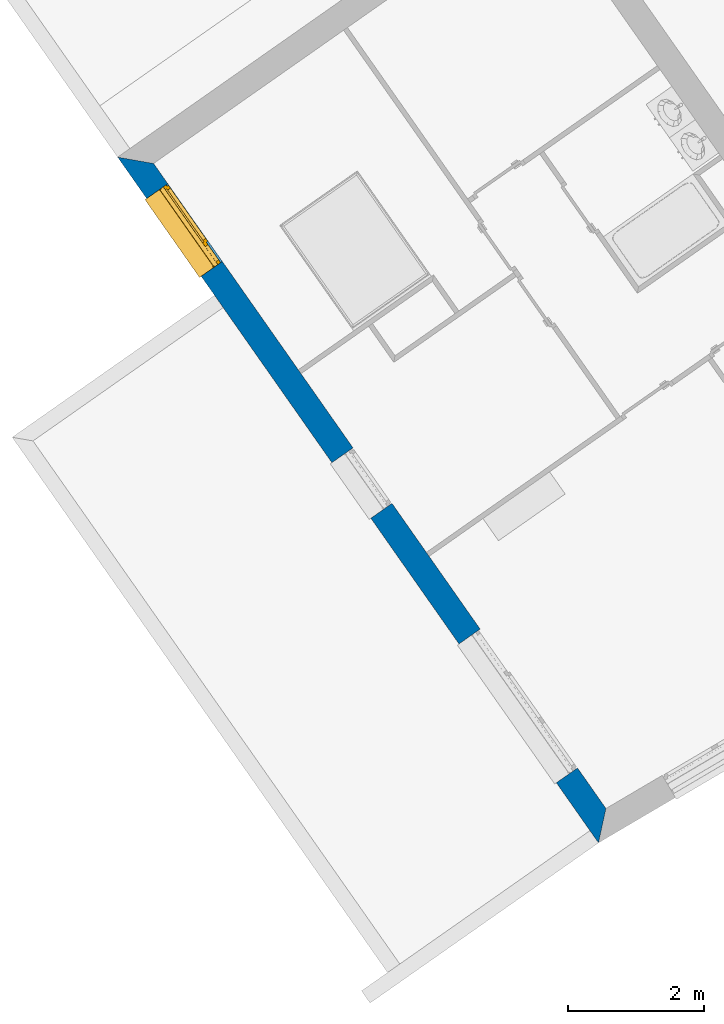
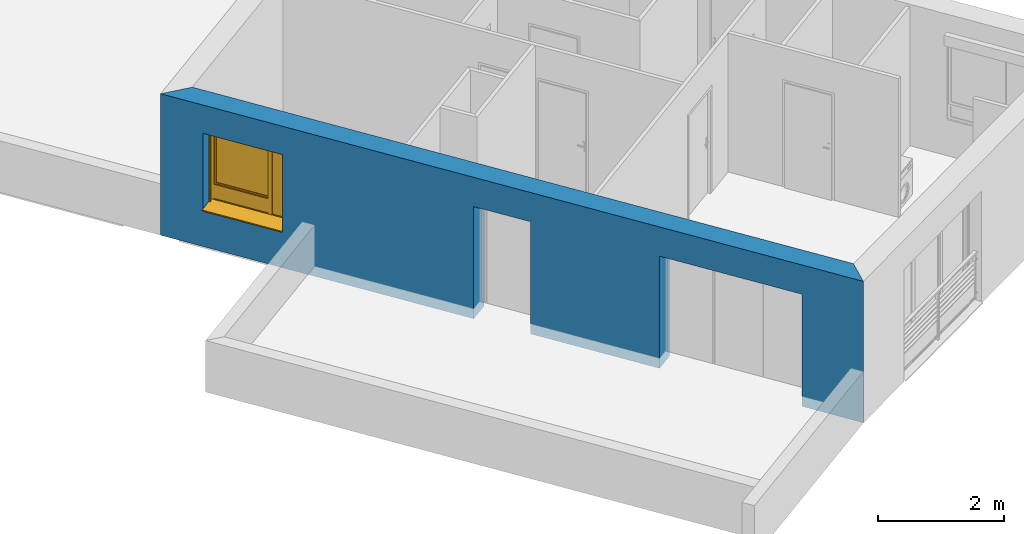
# One storey, part 25 of 121: 1 wall, 1 window, 3 openings.
"""IFC2X3 building model written with IfcOpenShell, lengths in metres."""

from ifc_helpers import new_model, entity, si_unit, converted_unit, derived_unit, money_unit, direction, frame, origin_with_axes, place, context, subcontext, project, spatial, polyline, outline, extrude, open_shell, faceted_brep, surface_model, source, transform, mapped, material, layer, layer_set, layer_usage, type_object, element, fill, save


model = new_model("IFC2X3")

# Units and contexts
model_context = context("Model", 3, precision=1e-05, world=origin_with_axes(), true_north=direction((0.0, 1.0)))
body_context = subcontext(model_context, "Body", "Model", "MODEL_VIEW")
ifc_project = project(units=[si_unit("LENGTHUNIT", "METRE"), si_unit("AREAUNIT", "SQUARE_METRE"), si_unit("VOLUMEUNIT", "CUBIC_METRE"), converted_unit("PLANEANGLEUNIT", "DEGREE", entity("IfcPlaneAngleMeasure", 0.0174532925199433), si_unit("PLANEANGLEUNIT", "RADIAN"), dimensions=[0, 0, 0, 0, 0, 0, 0]), money_unit("CHF"), converted_unit("TIMEUNIT", "Year", entity("IfcTimeMeasure", 31557600.0), si_unit("TIMEUNIT", "SECOND"), dimensions=[0, 0, 1, 0, 0, 0, 0]), si_unit("MASSUNIT", "GRAM", prefix="KILO"), si_unit("THERMODYNAMICTEMPERATUREUNIT", "DEGREE_CELSIUS"), si_unit("LUMINOUSINTENSITYUNIT", "LUMEN"), si_unit("ENERGYUNIT", "JOULE", prefix="MEGA"), derived_unit("THERMALCONDUCTANCEUNIT", [(si_unit("POWERUNIT", "WATT"), 1), (si_unit("LENGTHUNIT", "METRE"), -1), (si_unit("THERMODYNAMICTEMPERATUREUNIT", "KELVIN"), -1)]), derived_unit("SPECIFICHEATCAPACITYUNIT", [(si_unit("ENERGYUNIT", "JOULE"), 1), (si_unit("MASSUNIT", "GRAM", prefix="KILO"), -1), (si_unit("THERMODYNAMICTEMPERATUREUNIT", "KELVIN"), -1)]), derived_unit("MASSDENSITYUNIT", [(si_unit("MASSUNIT", "GRAM", prefix="KILO"), 1), (si_unit("VOLUMEUNIT", "CUBIC_METRE"), -1)])], contexts=[model_context])

# Site, building, storey
site_placement = place(None, origin_with_axes())
site = spatial("IfcSite", under=ifc_project, at=site_placement, Name="Site", CompositionType="ELEMENT")
building_placement = place(site_placement, origin_with_axes())
building = spatial("IfcBuilding", under=site, at=building_placement, Name="Bâtiment", CompositionType="ELEMENT")
storey_placement = place(building_placement, frame((0.0, 0.0, 2.75), z_axis=(0.0, 0.0, 1.0), x_axis=(1.0, 0.0, 0.0)))
storey = spatial("IfcBuildingStorey", under=building, at=storey_placement, Name="Etage 1", CompositionType="ELEMENT", Elevation=2.75)

# Wall, openings, window
ifc_material_1 = material(Name="Parpaing 312445824")
ifc_layer_1 = layer(ifc_material_1, 0.22, ventilated="UNKNOWN")
ifc_material_2 = material(Name="Isolant styromousse 301821074")
ifc_layer_2 = layer(ifc_material_2, 0.16, ventilated="UNKNOWN")
ifc_layer_set = layer_set([ifc_layer_1, ifc_layer_2], Name="isol int 22+16 0836643197")
ifc_layer_usage = layer_usage(ifc_layer_set, "AXIS2", "POSITIVE", 0.0)
wall_type = type_object("IfcWallType", Name="isol int 22+16 0836643197 380", PredefinedType="NOTDEFINED")
wall_placement = place(storey_placement, frame((9549.364183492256, -1063.980358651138, 57.7), z_axis=(0.0, 0.0, 1.0), x_axis=(0.5741598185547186, -0.8187432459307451, 0.0)))
wall = element("IfcWallStandardCase", 1, at=wall_placement, inside=storey, type_object=wall_type, material=ifc_layer_usage, Name="Mur-113", context=body_context, shape_type="SweptSolid", body=[
    extrude(outline(polyline([(0.0, 0.0), (12.34881229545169, 0.0), (11.99776416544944, 0.3799999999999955), (0.3800000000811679, 0.3799999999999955), (0.0, 0.0)])), origin_with_axes(), (0.0, 0.0, 1.0), 2.75),
])
opening_1_placement = place(wall_placement, frame((1.445114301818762, 0.0, 0.7000000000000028), z_axis=(0.0, 0.0, 1.0), x_axis=(1.0, 0.0, 0.0)))
opening_1 = element("IfcOpeningElement", 2, at=opening_1_placement, cuts=wall, Name="Fen-045", context=body_context, shape_type="Brep", body=[
    faceted_brep([(-0.7000000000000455, 0.4800000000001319, 1.5), (0.6999999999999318, 0.4800000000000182, 1.5), (0.6999999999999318, 6.186046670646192, 1.5), (-0.7000000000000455, 6.186046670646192, 1.5), (-0.7000000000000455, 0.4800000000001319, 1.700000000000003), (0.6999999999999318, 0.4800000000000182, 1.700000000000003), (0.6999999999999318, 0.2999999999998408, 1.5), (0.6999999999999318, 0.2999999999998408, 0.0), (0.6999999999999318, 6.186046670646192, 0.0), (-0.7000000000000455, 6.186046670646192, 0.0), (-0.7000000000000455, 0.2999999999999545, 1.5), (-0.7000000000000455, 0.2999999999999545, 0.0), (-0.7000000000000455, 0.2200000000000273, 1.5), (-0.7000000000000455, 0.2200000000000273, 1.700000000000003), (0.6999999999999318, 0.2200000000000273, 1.700000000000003), (0.6999999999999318, 0.2200000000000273, 1.5), (0.6999999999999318, -5.806046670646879, 1.5), (0.6999999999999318, -5.806046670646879, 0.0), (-0.7000000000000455, -5.806046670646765, 0.0), (-0.7000000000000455, -5.806046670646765, 1.5)], [[[0, 1, 2, 3]], [[1, 0, 4, 5]], [[1, 6, 7, 8, 2]], [[2, 8, 9, 3]], [[10, 0, 3, 9, 11]], [[0, 10, 12, 13, 4]], [[14, 5, 4, 13]], [[6, 1, 5, 14, 15]], [[6, 15, 16, 17, 7]], [[7, 11, 9, 8]], [[12, 10, 11, 18, 19]], [[12, 15, 14, 13]], [[15, 12, 19, 16]], [[19, 18, 17, 16]], [[11, 7, 17, 18]]]),
])
opening_2_placement = place(wall_placement, frame((6.002004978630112, 0.0, 0.0), z_axis=(0.0, 0.0, 1.0), x_axis=(1.0, 0.0, 0.0)))
element("IfcOpeningElement", 3, at=opening_2_placement, cuts=wall, Name="Fen-052", context=body_context, shape_type="Brep", body=[
    faceted_brep([(-0.5, 0.4799999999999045, 2.18), (0.4999999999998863, 0.4799999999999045, 2.18), (0.4999999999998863, 6.186046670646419, 2.18), (-0.5, 6.186046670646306, 2.18), (-0.5, 0.4799999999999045, 2.380000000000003), (0.4999999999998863, 0.4799999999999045, 2.380000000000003), (0.4999999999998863, 0.2999999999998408, 2.18), (0.4999999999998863, 0.2999999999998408, 0.0), (0.4999999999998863, 6.186046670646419, 0.0), (-0.5, 6.186046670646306, 0.0), (-0.5, 0.2999999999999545, 2.18), (-0.5, 0.2999999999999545, 0.0), (-0.5, 0.2199999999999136, 2.18), (-0.5, 0.2199999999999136, 2.380000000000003), (0.4999999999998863, 0.2199999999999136, 2.380000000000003), (0.4999999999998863, 0.2199999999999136, 2.18), (0.4999999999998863, -5.806046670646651, 2.18), (0.4999999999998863, -5.806046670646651, 0.0), (-0.5000000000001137, -5.806046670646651, 0.0), (-0.5000000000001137, -5.806046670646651, 2.18)], [[[0, 1, 2, 3]], [[1, 0, 4, 5]], [[1, 6, 7, 8, 2]], [[2, 8, 9, 3]], [[10, 0, 3, 9, 11]], [[0, 10, 12, 13, 4]], [[4, 13, 14, 5]], [[6, 1, 5, 14, 15]], [[6, 15, 16, 17, 7]], [[7, 11, 9, 8]], [[12, 10, 11, 18, 19]], [[12, 15, 14, 13]], [[15, 12, 19, 16]], [[19, 18, 17, 16]], [[11, 7, 17, 18]]]),
])
opening_3_placement = place(wall_placement, frame((10.01618190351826, 0.0, 0.0), z_axis=(0.0, 0.0, 1.0), x_axis=(1.0, 0.0, 0.0)))
element("IfcOpeningElement", 4, at=opening_3_placement, cuts=wall, Name="Fen-045", context=body_context, shape_type="Brep", body=[
    faceted_brep([(-1.25, 0.4800000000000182, 2.18), (1.25, 0.4799999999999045, 2.18), (1.249999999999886, 6.186046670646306, 2.18), (-1.25, 6.186046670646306, 2.18), (-1.25, 0.4800000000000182, 2.380000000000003), (1.25, 0.4799999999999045, 2.380000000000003), (1.249999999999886, 0.2999999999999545, 2.18), (1.249999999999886, 0.2999999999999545, 0.0), (1.249999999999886, 6.186046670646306, 0.0), (-1.25, 6.186046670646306, 0.0), (-1.25, 0.2999999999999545, 2.18), (-1.25, 0.2999999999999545, 0.0), (-1.25, 0.2199999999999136, 2.18), (-1.25, 0.2199999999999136, 2.380000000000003), (1.25, 0.2199999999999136, 2.380000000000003), (1.25, 0.2199999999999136, 2.18), (1.25, -5.806046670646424, 2.18), (1.25, -5.806046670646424, 0.0), (-1.25, -5.806046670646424, 0.0), (-1.25, -5.806046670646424, 2.18)], [[[0, 1, 2, 3]], [[1, 0, 4, 5]], [[1, 6, 7, 8, 2]], [[2, 8, 9, 3]], [[10, 0, 3, 9, 11]], [[0, 10, 12, 13, 4]], [[4, 13, 14, 5]], [[6, 1, 5, 14, 15]], [[6, 15, 16, 17, 7]], [[7, 11, 9, 8]], [[12, 10, 11, 18, 19]], [[12, 15, 14, 13]], [[15, 12, 19, 16]], [[19, 18, 17, 16]], [[11, 7, 17, 18]]]),
])
window_style = type_object("IfcWindowStyle", Name="Fenêtre variable 27", ConstructionType="NOTDEFINED", OperationType="TRIPLE_PANEL_RIGHT", ParameterTakesPrecedence=False, Sizeable=False)
shared_shape = source(origin_with_axes(), body_context, "Body", "SurfaceModel", [
    surface_model("IfcShellBasedSurfaceModel", [(-0.7, -0.05100000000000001, 0.05), (-0.7, -0.05100000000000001, 0.04), (0.7, -0.05100000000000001, 0.04000000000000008), (0.7, -0.05100000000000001, 0.05000000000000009), (-0.7, -0.3799999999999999, 0.02899999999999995), (0.7, -0.3799999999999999, 0.02900000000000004), (-0.7, -0.3799999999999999, 0.008999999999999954), (0.7, -0.3799999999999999, 0.00900000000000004), (-0.7, -0.3699999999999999, 0.01899999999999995), (0.7, -0.3699999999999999, 0.01900000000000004)], [open_shell([[[0, 1, 2, 3]], [[1, 4, 5, 2]], [[4, 6, 7, 5]], [[6, 8, 9, 7]]])]),
    faceted_brep([(-0.7, -0.13, 1.7), (-0.697, -0.13, 1.7), (-0.697, 0.13, 1.7), (-0.7, 0.13, 1.7), (-0.7, -0.13, 1.5), (-0.697, -0.13, 1.5), (-0.697, 0.13, 1.5), (-0.7, 0.13, 1.5)], [[[0, 1, 2, 3]], [[4, 5, 1, 0]], [[1, 5, 6, 2]], [[3, 2, 6, 7]], [[0, 3, 7, 4]], [[7, 6, 5, 4]]]),
    faceted_brep([(0.6970000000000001, -0.1299999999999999, 1.7), (0.7000000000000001, -0.1299999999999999, 1.7), (0.7000000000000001, 0.1300000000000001, 1.7), (0.6970000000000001, 0.1300000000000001, 1.7), (0.6970000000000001, -0.1299999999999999, 1.5), (0.7000000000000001, -0.1299999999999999, 1.5), (0.7000000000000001, 0.1300000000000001, 1.5), (0.6970000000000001, 0.1300000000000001, 1.5)], [[[0, 1, 2, 3]], [[4, 5, 1, 0]], [[1, 5, 6, 2]], [[3, 2, 6, 7]], [[0, 3, 7, 4]], [[7, 6, 5, 4]]]),
    faceted_brep([(-0.697, -0.13, 1.5), (0.697, -0.1299999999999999, 1.5), (0.697, -0.1299999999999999, 1.7), (-0.697, -0.13, 1.7), (-0.697, -0.127, 1.5), (0.697, -0.1269999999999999, 1.5), (0.697, -0.1269999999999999, 1.697), (0.697, 0.1270000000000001, 1.697), (0.697, 0.1270000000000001, 1.503), (0.697, -0.1079999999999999, 1.503), (0.697, -0.1079999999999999, 1.5), (0.697, 0.1300000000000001, 1.5), (0.697, 0.1300000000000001, 1.7), (-0.697, 0.13, 1.7), (-0.697, 0.13, 1.5), (-0.697, -0.108, 1.5), (-0.697, -0.108, 1.503), (-0.697, 0.127, 1.503), (-0.697, 0.127, 1.697), (-0.697, -0.127, 1.697)], [[[0, 1, 2, 3]], [[4, 5, 1, 0]], [[1, 5, 6, 7, 8, 9, 10, 11, 12, 2]], [[3, 2, 12, 13]], [[0, 3, 13, 14, 15, 16, 17, 18, 19, 4]], [[19, 6, 5, 4]], [[18, 7, 6, 19]], [[17, 8, 7, 18]], [[16, 9, 8, 17]], [[15, 10, 9, 16]], [[14, 11, 10, 15]], [[13, 12, 11, 14]]]),
    faceted_brep([(-0.694, -0.08075423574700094, 1.585760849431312), (-0.694, -0.08200000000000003, 1.6), (-0.694, -0.0807542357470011, 1.614239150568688), (-0.694, -0.07705479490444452, 1.628045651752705), (-0.694, -0.07101408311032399, 1.641), (-0.694, -0.06281564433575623, 1.652708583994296), (-0.694, -0.05270858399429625, 1.662815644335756), (-0.694, -0.04100000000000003, 1.671014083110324), (-0.694, -0.02804565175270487, 1.677054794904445), (-0.694, -0.01423915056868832, 1.680754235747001), (-0.694, 0.0, 1.682), (-0.694, 0.01423915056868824, 1.680754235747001), (-0.694, 0.02804565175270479, 1.677054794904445), (-0.694, 0.04099999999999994, 1.671014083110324), (-0.694, 0.05270858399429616, 1.662815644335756), (-0.694, 0.06281564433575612, 1.652708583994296), (-0.694, 0.07101408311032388, 1.641), (-0.694, 0.0770547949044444, 1.628045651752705), (-0.694, 0.08075423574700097, 1.614239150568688), (-0.694, 0.0819999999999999, 1.6), (-0.694, 0.08075423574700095, 1.585760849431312), (-0.694, 0.07705479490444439, 1.571954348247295), (-0.694, 0.07101408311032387, 1.559), (-0.694, 0.06281564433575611, 1.547291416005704), (-0.694, 0.05270858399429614, 1.537184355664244), (-0.694, 0.04099999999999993, 1.528985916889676), (-0.694, 0.02804565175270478, 1.522945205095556), (-0.694, 0.01423915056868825, 1.519245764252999), (-0.694, 0.0, 1.518), (-0.694, -0.01423915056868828, 1.519245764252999), (-0.694, -0.02804565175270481, 1.522945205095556), (-0.694, -0.04099999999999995, 1.528985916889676), (-0.694, -0.05270858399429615, 1.537184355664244), (-0.694, -0.06281564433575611, 1.547291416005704), (-0.694, -0.07101408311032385, 1.559), (-0.694, -0.07705479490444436, 1.571954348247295), (0.694, -0.08075423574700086, 1.585760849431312), (0.694, -0.08199999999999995, 1.6), (0.694, -0.08075423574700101, 1.614239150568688), (0.694, -0.07705479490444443, 1.628045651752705), (0.694, -0.07101408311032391, 1.641), (0.694, -0.06281564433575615, 1.652708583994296), (0.694, -0.05270858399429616, 1.662815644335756), (0.694, -0.04099999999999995, 1.671014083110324), (0.694, -0.02804565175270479, 1.677054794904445), (0.694, -0.01423915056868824, 1.680754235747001), (0.694, 0.0, 1.682), (0.694, 0.01423915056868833, 1.680754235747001), (0.694, 0.02804565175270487, 1.677054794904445), (0.694, 0.04100000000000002, 1.671014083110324), (0.694, 0.05270858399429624, 1.662815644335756), (0.694, 0.0628156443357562, 1.652708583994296), (0.694, 0.07101408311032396, 1.641), (0.694, 0.07705479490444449, 1.628045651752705), (0.694, 0.08075423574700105, 1.614239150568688), (0.694, 0.08199999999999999, 1.6), (0.694, 0.08075423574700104, 1.585760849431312), (0.694, 0.07705479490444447, 1.571954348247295), (0.694, 0.07101408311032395, 1.559), (0.694, 0.06281564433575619, 1.547291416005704), (0.694, 0.05270858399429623, 1.537184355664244), (0.694, 0.04100000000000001, 1.528985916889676), (0.694, 0.02804565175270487, 1.522945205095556), (0.694, 0.01423915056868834, 1.519245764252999), (0.694, 0.0, 1.518), (0.694, -0.0142391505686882, 1.519245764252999), (0.694, -0.02804565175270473, 1.522945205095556), (0.694, -0.04099999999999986, 1.528985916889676), (0.694, -0.05270858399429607, 1.537184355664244), (0.694, -0.06281564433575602, 1.547291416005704), (0.694, -0.07101408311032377, 1.559), (0.694, -0.07705479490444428, 1.571954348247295)], [[[0, 1, 2, 3, 4, 5, 6, 7, 8, 9, 10, 11, 12, 13, 14, 15, 16, 17, 18, 19, 20, 21, 22, 23, 24, 25, 26, 27, 28, 29, 30, 31, 32, 33, 34, 35]], [[0, 36, 37, 1]], [[1, 37, 38, 2]], [[2, 38, 39, 3]], [[3, 39, 40, 4]], [[4, 40, 41, 5]], [[5, 41, 42, 6]], [[6, 42, 43, 7]], [[7, 43, 44, 8]], [[8, 44, 45, 9]], [[9, 45, 46, 10]], [[10, 46, 47, 11]], [[11, 47, 48, 12]], [[12, 48, 49, 13]], [[13, 49, 50, 14]], [[14, 50, 51, 15]], [[15, 51, 52, 16]], [[16, 52, 53, 17]], [[17, 53, 54, 18]], [[18, 54, 55, 19]], [[19, 55, 56, 20]], [[20, 56, 57, 21]], [[21, 57, 58, 22]], [[22, 58, 59, 23]], [[23, 59, 60, 24]], [[24, 60, 61, 25]], [[25, 61, 62, 26]], [[26, 62, 63, 27]], [[27, 63, 64, 28]], [[28, 64, 65, 29]], [[29, 65, 66, 30]], [[30, 66, 67, 31]], [[31, 67, 68, 32]], [[32, 68, 69, 33]], [[33, 69, 70, 34]], [[34, 70, 71, 35]], [[35, 71, 36, 0]], [[36, 71, 70, 69, 68, 67, 66, 65, 64, 63, 62, 61, 60, 59, 58, 57, 56, 55, 54, 53, 52, 51, 50, 49, 48, 47, 46, 45, 44, 43, 42, 41, 40, 39, 38, 37]]]),
    faceted_brep([(0.7, -0.105, 0.03), (0.7, -0.1049999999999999, 1.5), (0.7, -0.1299999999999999, 1.5), (0.7, -0.13, 0.03), (0.6749999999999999, -0.105, 0.03), (0.6749999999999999, -0.1049999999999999, 1.5), (0.6749999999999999, -0.1079999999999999, 1.5), (0.697, -0.1079999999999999, 1.5), (0.697, -0.1269999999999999, 1.5), (0.6749999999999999, -0.1269999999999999, 1.5), (0.6749999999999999, -0.1299999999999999, 1.5), (0.6749999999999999, -0.13, 0.03), (0.6749999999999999, -0.127, 0.03), (0.697, -0.127, 0.03), (0.697, -0.108, 0.03), (0.6749999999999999, -0.108, 0.03)], [[[0, 1, 2, 3]], [[4, 5, 1, 0]], [[1, 5, 6, 7, 8, 9, 10, 2]], [[3, 2, 10, 11]], [[0, 3, 11, 12, 13, 14, 15, 4]], [[15, 6, 5, 4]], [[14, 7, 6, 15]], [[13, 8, 7, 14]], [[12, 9, 8, 13]], [[11, 10, 9, 12]]]),
    faceted_brep([(-0.7, -0.105, 0.03), (-0.7, -0.13, 0.03), (-0.7, -0.1299999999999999, 1.5), (-0.7, -0.1049999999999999, 1.5), (-0.6749999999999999, -0.105, 0.03), (-0.6749999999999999, -0.108, 0.03), (-0.697, -0.108, 0.03), (-0.697, -0.127, 0.03), (-0.6749999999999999, -0.127, 0.03), (-0.6749999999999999, -0.13, 0.03), (-0.6749999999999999, -0.1299999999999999, 1.5), (-0.6749999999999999, -0.1269999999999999, 1.5), (-0.697, -0.1269999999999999, 1.5), (-0.697, -0.1079999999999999, 1.5), (-0.6749999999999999, -0.1079999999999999, 1.5), (-0.6749999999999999, -0.1049999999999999, 1.5)], [[[0, 1, 2, 3]], [[0, 4, 5, 6, 7, 8, 9, 1]], [[1, 9, 10, 2]], [[3, 2, 10, 11, 12, 13, 14, 15]], [[4, 0, 3, 15]], [[5, 4, 15, 14]], [[6, 5, 14, 13]], [[7, 6, 13, 12]], [[8, 7, 12, 11]], [[9, 8, 11, 10]]]),
    surface_model("IfcShellBasedSurfaceModel", [(-0.697, -0.115, 1.6), (0.697, -0.1149999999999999, 1.6), (0.697, -0.1199999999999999, 1.6), (-0.697, -0.12, 1.6), (-0.697, -0.115, 1.6), (-0.697, -0.12, 1.6), (0.697, -0.12, 1.6), (0.697, -0.1149999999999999, 1.6)], [open_shell([[[0, 1, 2, 3]], [[4, 5, 6, 7]]])]),
    faceted_brep([(-0.697, -0.115, 1.6), (0.697, -0.1149999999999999, 1.6), (0.697, -0.1166666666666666, 1.583333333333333), (-0.697, -0.1166666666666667, 1.583333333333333), (-0.697, -0.12, 1.6), (0.697, -0.1199999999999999, 1.6), (0.697, -0.1216666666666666, 1.583333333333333), (0.697, -0.1216666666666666, 1.566666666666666), (0.697, -0.1199999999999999, 1.55), (0.697, -0.1149999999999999, 1.55), (0.697, -0.1166666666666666, 1.566666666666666), (-0.697, -0.1166666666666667, 1.566666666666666), (-0.697, -0.115, 1.55), (-0.697, -0.12, 1.55), (-0.697, -0.1216666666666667, 1.566666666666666), (-0.697, -0.1216666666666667, 1.583333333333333)], [[[0, 1, 2, 3]], [[4, 5, 1, 0]], [[1, 5, 6, 7, 8, 9, 10, 2]], [[3, 2, 10, 11]], [[0, 3, 11, 12, 13, 14, 15, 4]], [[15, 6, 5, 4]], [[14, 7, 6, 15]], [[13, 8, 7, 14]], [[12, 9, 8, 13]], [[11, 10, 9, 12]]]),
    faceted_brep([(-0.697, -0.115, 1.55), (0.697, -0.1149999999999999, 1.55), (0.697, -0.1166666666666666, 1.533333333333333), (-0.697, -0.1166666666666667, 1.533333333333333), (-0.697, -0.12, 1.55), (0.697, -0.1199999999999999, 1.55), (0.697, -0.1216666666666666, 1.533333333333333), (0.697, -0.1216666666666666, 1.516666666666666), (0.697, -0.1199999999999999, 1.5), (0.697, -0.1149999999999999, 1.5), (0.697, -0.1166666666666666, 1.516666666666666), (-0.697, -0.1166666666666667, 1.516666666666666), (-0.697, -0.115, 1.5), (-0.697, -0.12, 1.5), (-0.697, -0.1216666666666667, 1.516666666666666), (-0.697, -0.1216666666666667, 1.533333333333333)], [[[0, 1, 2, 3]], [[4, 5, 1, 0]], [[1, 5, 6, 7, 8, 9, 10, 2]], [[3, 2, 10, 11]], [[0, 3, 11, 12, 13, 14, 15, 4]], [[15, 6, 5, 4]], [[14, 7, 6, 15]], [[13, 8, 7, 14]], [[12, 9, 8, 13]], [[11, 10, 9, 12]]]),
    faceted_brep([(-0.6749999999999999, 0.0, 1.45), (-0.7, 0.0, 1.45), (-0.7, -0.05000000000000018, 1.45), (-0.6499999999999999, -0.05000000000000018, 1.45), (-0.6499999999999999, -0.02500000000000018, 1.45), (-0.6749999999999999, -0.02500000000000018, 1.45), (-0.6749999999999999, 0.0, 0.3099999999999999), (-0.6499999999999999, 0.0, 0.3099999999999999), (-0.6499999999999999, 0.0, 0.265), (-0.6499999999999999, 0.0, 0.05000000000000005), (-0.7, 0.0, 0.05000000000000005), (-0.7, -0.05000000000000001, 0.05000000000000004), (-0.6499999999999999, -0.05000000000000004, 0.335), (-0.6499999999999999, -0.05000000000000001, 0.05000000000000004), (-0.6499999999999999, -0.05000000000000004, 0.265), (-0.6499999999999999, -0.02500000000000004, 0.335), (-0.6499999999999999, -0.02500000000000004, 0.3099999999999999), (-0.6749999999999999, -0.02500000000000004, 0.3099999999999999)], [[[0, 1, 2, 3, 4, 5]], [[6, 7, 8, 9, 10, 1, 0]], [[1, 10, 11, 2]], [[12, 3, 2, 11, 13, 14]], [[4, 3, 12, 15]], [[15, 16, 17, 5, 4]], [[5, 17, 6, 0]], [[6, 17, 16, 7]], [[16, 15, 12, 14, 8, 7]], [[9, 8, 14, 13]], [[10, 9, 13, 11]]]),
    faceted_brep([(0.3068894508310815, -0.02500000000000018, 1.45), (0.3068894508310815, -0.05000000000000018, 1.45), (0.3768894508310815, -0.05000000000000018, 1.45), (0.3768894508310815, 0.0, 1.45), (0.3318894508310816, 0.0, 1.45), (0.3318894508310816, -0.02500000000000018, 1.45), (0.3068894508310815, -0.02500000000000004, 0.335), (0.3068894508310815, -0.05000000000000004, 0.335), (0.3068894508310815, -0.05000000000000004, 0.265), (0.3068894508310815, -0.05000000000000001, 0.05000000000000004), (0.3768894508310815, -0.05000000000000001, 0.05000000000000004), (0.3768894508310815, 0.0, 0.05000000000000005), (0.3318894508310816, 0.0, 0.3099999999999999), (0.3068894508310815, 0.0, 0.05000000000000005), (0.3068894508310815, 0.0, 0.265), (0.3068894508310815, 0.0, 0.3099999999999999), (0.3318894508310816, -0.02500000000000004, 0.3099999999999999), (0.3068894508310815, -0.02500000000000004, 0.3099999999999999)], [[[0, 1, 2, 3, 4, 5]], [[6, 7, 1, 0]], [[8, 9, 10, 2, 1, 7]], [[11, 3, 2, 10]], [[12, 4, 3, 11, 13, 14, 15]], [[12, 16, 5, 4]], [[5, 16, 17, 6, 0]], [[17, 15, 14, 8, 7, 6]], [[14, 13, 9, 8]], [[13, 11, 10, 9]], [[15, 17, 16, 12]]]),
    faceted_brep([(-0.6499999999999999, -0.02500000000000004, 0.335), (-0.6499999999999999, -0.05000000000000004, 0.335), (0.3068894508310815, -0.05000000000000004, 0.335), (0.3068894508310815, -0.02500000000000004, 0.335), (-0.6499999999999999, -0.02500000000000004, 0.3099999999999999), (-0.6499999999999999, 0.0, 0.3099999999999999), (-0.6499999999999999, 0.0, 0.265), (-0.6499999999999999, -0.05000000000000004, 0.265), (0.3068894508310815, -0.05000000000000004, 0.265), (0.3068894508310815, -0.02500000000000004, 0.3099999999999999), (0.3068894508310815, 0.0, 0.265), (0.3068894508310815, 0.0, 0.3099999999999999)], [[[0, 1, 2, 3]], [[4, 5, 6, 7, 1, 0]], [[2, 1, 7, 8]], [[9, 3, 2, 8, 10, 11]], [[9, 4, 0, 3]], [[5, 4, 9, 11]], [[11, 10, 6, 5]], [[6, 10, 8, 7]]]),
    faceted_brep([(-0.6749999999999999, 0.0, 1.45), (-0.7, 0.0, 1.45), (-0.7, 0.0, 1.5), (0.7, 0.0, 1.5), (0.7, 0.0, 1.45), (0.6499999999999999, 0.0, 1.45), (0.3768894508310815, 0.0, 1.45), (0.3318894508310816, 0.0, 1.45), (0.3318894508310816, 0.0, 1.475), (-0.6749999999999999, 0.0, 1.475), (-0.6749999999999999, -0.02500000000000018, 1.45), (-0.6499999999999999, -0.02500000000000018, 1.45), (-0.6499999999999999, -0.05000000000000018, 1.45), (-0.7, -0.05000000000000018, 1.45), (-0.7, -0.05000000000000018, 1.5), (0.7, -0.05000000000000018, 1.5), (0.7, -0.05000000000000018, 1.45), (0.6499999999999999, -0.05000000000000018, 1.45), (0.3768894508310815, -0.05000000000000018, 1.45), (0.3318894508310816, -0.02500000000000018, 1.45), (0.3068894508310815, -0.05000000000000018, 1.45), (0.3068894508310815, -0.02500000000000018, 1.45), (0.3318894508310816, -0.02500000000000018, 1.475), (-0.6749999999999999, -0.02500000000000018, 1.475)], [[[0, 1, 2, 3, 4, 5, 6, 7, 8, 9]], [[10, 11, 12, 13, 1, 0]], [[2, 1, 13, 14]], [[3, 2, 14, 15]], [[4, 3, 15, 16]], [[5, 4, 16, 17]], [[6, 5, 17, 18]], [[19, 7, 6, 18, 20, 21]], [[7, 19, 22, 8]], [[8, 22, 23, 9]], [[9, 23, 10, 0]], [[21, 11, 10, 23, 22, 19]], [[21, 20, 12, 11]], [[18, 17, 16, 15, 14, 13, 12, 20]]]),
    faceted_brep([(0.6499999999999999, -0.05000000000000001, 0.05), (0.6499999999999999, 0.0, 0.05000000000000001), (0.7, 0.0, 0.05000000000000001), (0.7, -0.05000000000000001, 0.05), (0.6499999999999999, -0.05000000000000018, 1.45), (0.6499999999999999, 0.0, 1.45), (0.7, 0.0, 1.45), (0.7, -0.05000000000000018, 1.45)], [[[0, 1, 2, 3]], [[4, 5, 1, 0]], [[1, 5, 6, 2]], [[3, 2, 6, 7]], [[0, 3, 7, 4]], [[7, 6, 5, 4]]]),
    faceted_brep([(-0.6499999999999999, -0.05000000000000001, 0.05), (-0.6499999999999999, 0.0, 0.05000000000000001), (-0.7, 0.0, 0.05000000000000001), (-0.7, -0.05000000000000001, 0.05), (0.3068894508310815, -0.05000000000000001, 0.05), (0.3068894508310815, 0.0, 0.05000000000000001), (0.3768894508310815, 0.0, 0.05000000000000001), (0.6499999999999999, 0.0, 0.05000000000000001), (0.7, 0.0, 0.05000000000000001), (0.7, 0.0, 0.0), (-0.7, 0.0, 0.0), (-0.7, -0.05, 0.0), (0.7, -0.05, 0.0), (0.7, -0.05000000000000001, 0.05), (0.6499999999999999, -0.05000000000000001, 0.05), (0.3768894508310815, -0.05000000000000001, 0.05)], [[[0, 1, 2, 3]], [[4, 5, 1, 0]], [[1, 5, 6, 7, 8, 9, 10, 2]], [[3, 2, 10, 11]], [[0, 3, 11, 12, 13, 14, 15, 4]], [[15, 6, 5, 4]], [[14, 7, 6, 15]], [[13, 8, 7, 14]], [[12, 9, 8, 13]], [[11, 10, 9, 12]]]),
    faceted_brep([(-0.625, -0.02500000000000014, 1.425), (-0.625, 0.02499999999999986, 1.425), (-0.6749999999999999, 0.02499999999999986, 1.425), (-0.6749999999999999, -0.02500000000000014, 1.425), (-0.625, -0.02500000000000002, 0.3599999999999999), (-0.625, 0.02499999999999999, 0.3599999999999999), (-0.6749999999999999, 0.02499999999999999, 0.3599999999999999), (-0.6749999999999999, -0.02500000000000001, 0.3599999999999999)], [[[0, 1, 2, 3]], [[4, 5, 1, 0]], [[1, 5, 6, 2]], [[3, 2, 6, 7]], [[0, 3, 7, 4]], [[7, 6, 5, 4]]]),
    faceted_brep([(0.2818894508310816, -0.02500000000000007, 0.3599999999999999), (0.2818894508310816, 0.02499999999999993, 0.3599999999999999), (0.3318894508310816, 0.02499999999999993, 0.3599999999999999), (0.3318894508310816, -0.02500000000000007, 0.3599999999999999), (0.2818894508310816, -0.0250000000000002, 1.425), (0.2818894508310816, 0.0249999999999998, 1.425), (0.3318894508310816, 0.0249999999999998, 1.425), (0.3318894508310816, -0.0250000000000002, 1.425)], [[[0, 1, 2, 3]], [[4, 5, 1, 0]], [[1, 5, 6, 2]], [[3, 2, 6, 7]], [[0, 3, 7, 4]], [[7, 6, 5, 4]]]),
    faceted_brep([(0.3318894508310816, -0.02500000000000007, 0.3099999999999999), (0.3318894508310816, 0.02499999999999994, 0.3099999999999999), (0.3318894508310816, 0.02499999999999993, 0.3599999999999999), (0.3318894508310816, -0.02500000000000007, 0.3599999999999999), (-0.6749999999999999, -0.025, 0.3099999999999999), (-0.6749999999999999, 0.02499999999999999, 0.3099999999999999), (-0.6749999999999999, 0.02499999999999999, 0.3599999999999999), (-0.625, 0.02499999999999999, 0.3599999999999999), (0.2818894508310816, 0.02499999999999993, 0.3599999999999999), (0.2818894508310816, -0.02500000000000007, 0.3599999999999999), (-0.625, -0.02500000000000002, 0.3599999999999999), (-0.6749999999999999, -0.02500000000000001, 0.3599999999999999)], [[[0, 1, 2, 3]], [[4, 5, 1, 0]], [[1, 5, 6, 7, 8, 2]], [[3, 2, 8, 9]], [[0, 3, 9, 10, 11, 4]], [[11, 6, 5, 4]], [[10, 7, 6, 11]], [[9, 8, 7, 10]]]),
    faceted_brep([(-0.6749999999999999, -0.02500000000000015, 1.475), (-0.6749999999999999, 0.02499999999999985, 1.475), (-0.6749999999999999, 0.02499999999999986, 1.425), (-0.6749999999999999, -0.02500000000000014, 1.425), (0.3318894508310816, -0.02500000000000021, 1.475), (0.3318894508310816, 0.02499999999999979, 1.475), (0.3318894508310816, 0.0249999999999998, 1.425), (0.2818894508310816, 0.0249999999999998, 1.425), (-0.625, 0.02499999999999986, 1.425), (-0.625, -0.02500000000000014, 1.425), (0.2818894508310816, -0.0250000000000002, 1.425), (0.3318894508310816, -0.0250000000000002, 1.425)], [[[0, 1, 2, 3]], [[4, 5, 1, 0]], [[1, 5, 6, 7, 8, 2]], [[3, 2, 8, 9]], [[0, 3, 9, 10, 11, 4]], [[11, 6, 5, 4]], [[10, 7, 6, 11]], [[9, 8, 7, 10]]]),
    surface_model("IfcShellBasedSurfaceModel", [(-0.625, -0.01000000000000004, 0.3599999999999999), (0.2818894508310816, -0.01000000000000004, 0.3599999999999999), (0.2818894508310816, -0.01000000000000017, 1.425), (-0.625, -0.01000000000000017, 1.425)], [open_shell([[[0, 1, 2, 3]]])]),
    surface_model("IfcShellBasedSurfaceModel", [(-0.625, 0.009999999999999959, 0.3599999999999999), (-0.625, 0.00999999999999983, 1.425), (0.2818894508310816, 0.00999999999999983, 1.425), (0.2818894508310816, 0.009999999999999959, 0.3599999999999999)], [open_shell([[[0, 1, 2, 3]]])]),
    surface_model("IfcShellBasedSurfaceModel", [(0.3768894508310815, -0.035, 0.05), (0.65, -0.035, 0.05), (0.65, -0.03500000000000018, 1.45), (0.3768894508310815, -0.03500000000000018, 1.45)], [open_shell([[[0, 1, 2, 3]]])]),
    surface_model("IfcShellBasedSurfaceModel", [(0.3768894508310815, -0.015, 0.05), (0.3768894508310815, -0.01500000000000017, 1.45), (0.65, -0.01500000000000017, 1.45), (0.65, -0.015, 0.05)], [open_shell([[[0, 1, 2, 3]]])]),
    surface_model("IfcShellBasedSurfaceModel", [(-0.6499999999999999, -0.035, 0.05), (0.3068894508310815, -0.035, 0.05), (0.3068894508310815, -0.03500000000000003, 0.265), (-0.6499999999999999, -0.03500000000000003, 0.265)], [open_shell([[[0, 1, 2, 3]]])]),
    surface_model("IfcShellBasedSurfaceModel", [(-0.6499999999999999, -0.015, 0.05), (-0.6499999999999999, -0.01500000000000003, 0.265), (0.3068894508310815, -0.01500000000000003, 0.265), (0.3068894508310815, -0.015, 0.05)], [open_shell([[[0, 1, 2, 3]]])]),
])
window_placement = place(opening_1_placement, frame((-0.7000000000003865, 0.0, 0.0), z_axis=(0.0, 0.0, 1.0), x_axis=(1.0, 0.0, 0.0)))
window = element("IfcWindow", 5, at=window_placement, inside=storey, type_object=window_style, Name="Fen-045", OverallHeight=1.5, OverallWidth=1.4, context=body_context, shape_type="MappedRepresentation", body=[
    mapped(shared_shape, transform((0.7000000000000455, 0.3500000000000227, 0.0))),
])
fill(opening_1, window)

save(model, "model.ifc")
